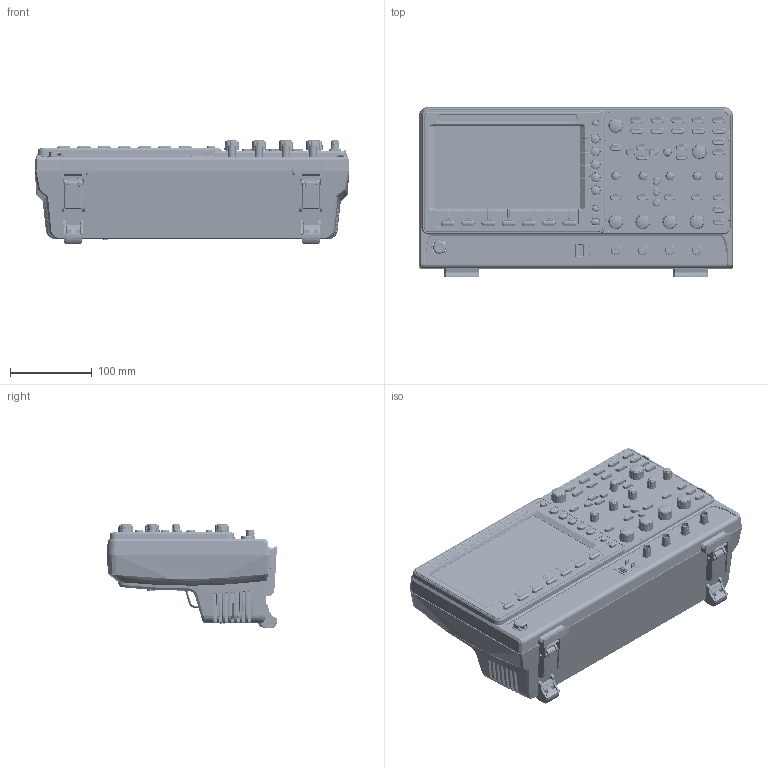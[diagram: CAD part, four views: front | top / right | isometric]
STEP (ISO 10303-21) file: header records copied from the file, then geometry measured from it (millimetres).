
FILE_DESCRIPTION((''),'2;1');
FILE_NAME('GDS2000E_ASM','2020-01-10T09:21:02',('mike_lee'),(''),'CREO PARAMETRIC BY PTC INC, 2019080','CREO PARAMETRIC BY PTC INC, 2019080','');
FILE_SCHEMA(('CONFIG_CONTROL_DESIGN'));
Products named in the file (80): GDS2000E_IN_SKEL_5; SO-M3-13_4; SO-M3-5_10; SO-M3-13-A_5; CAL-TERMINAL-1000_4; SO-M3-9-A_4; SO-M3-9_1; RIVETING_1; 62DS-2KEFP101_ASM_58_ASM; HSD080IDW1-C_10; 62DS-2KEHP101_39; 16-9_LCM_ASM_15_ASM; USB-V_16; BNC-50OHM_1; GDS1000B_USB-PCB_5; GDS1000B_USB-PCB_ASM_2_ASM; 62DS-234CP101-1KB_3; USB_B_1; RJ45_RV1-1610DN1A_5; 62DS-2KESP101_20; 62DS-2KESP201_27; 62DS-2KESP401_19; 62DS-2KESP301_11; GDS2000E_FF_PCB_ASM_60_ASM; SO-M3-7-5_2; 62DS-2KEHP201_ASM_1_ASM; 5004-160G0701_3; AC-TU301ALL-Y11_6; GDS2KE_PW_ASM_12_ASM; FAN-SCREW_4; GDS2KE_POWER_ASM_42_ASM; ENCODE_SW-NOBLE_6; BTS-LOCK-3X6_4; ENCODE_SW-PUSH_2; GDS2KE_KEY_PCBA_ASM_16_ASM; 57RG-20B04601_11; 57RG-20B04701_12; 5303-01207301_10; BMS-LOCK-3X8_9; GDS2000E_IN_ASM_129_ASM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
Assembly tree (259 placements, depth 6):
  GDS2000E_ASM
    GDS2000E_ASM_ASM_286_ASM
      GDS2000E_IN_ASM_129_ASM
        GDS2000E_IN_SKEL_5
        62DS-2KEFP101_ASM_58_ASM
          SO-M3-13_4  x12
          SO-M3-5_10  x3
          SO-M3-13-A_5  x4
          CAL-TERMINAL-1000_4
          SO-M3-9-A_4  x2
          SO-M3-9_1  x10
          RIVETING_1  x2
        16-9_LCM_ASM_15_ASM
          HSD080IDW1-C_10
          62DS-2KEHP101_39
        GDS2000E_FF_PCB_ASM_60_ASM
          USB-V_16
          BNC-50OHM_1  x6
          GDS1000B_USB-PCB_ASM_2_ASM
            GDS1000B_USB-PCB_5
            USB-V_16
          62DS-234CP101-1KB_3
          USB_B_1
          RJ45_RV1-1610DN1A_5
          62DS-2KESP101_20
          62DS-2KESP201_27
          62DS-2KESP401_19
          62DS-2KESP301_11
        GDS2KE_POWER_ASM_42_ASM
          62DS-2KEHP201_ASM_1_ASM
            SO-M3-7-5_2  x5
          GDS2KE_PW_ASM_12_ASM
            5004-160G0701_3
            AC-TU301ALL-Y11_6
          FAN-SCREW_4  x2
        GDS2KE_KEY_PCBA_ASM_16_ASM
          ENCODE_SW-NOBLE_6  x7
          BTS-LOCK-3X6_4  x12
          ENCODE_SW-PUSH_2  x6
        57RG-20B04601_11  x2
        57RG-20B04701_12  x2
        5303-01207301_10
        BMS-LOCK-3X8_9  x22
      GDS1000B_IN_ASM_56_ASM
        GDS2000E_IN_SKEL_5
        62DS-1KBFP101_ASM_40_ASM
          CAL-TERMINAL-1000_4
          SO-M3-13_4  x12
          SO-M3-5_10  x3
          SO-M3-13-A_5  x4
          SO-M3-9_1  x9
          SO-M3-9-A_4  x4
        GDS1KB_KEY_PCBA_ASM_15_ASM
          ENCODE_SW-PUSH_2  x12
          BTS-LOCK-3X6_4  x13
        GDS1000B_FF_PCB_ASM_44_ASM
          GDS1000B_USB-PCB_ASM_2_ASM
            GDS1000B_USB-PCB_5
            USB-V_16
          62DS-234CP101-1KB_3
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Bounding box: 384 x 208 x 127.6 mm (x, y, z)
Volume: 1031905.8 mm3; surface area: 1015930.6 mm2
Topology: 231 solids, 231 shells, 19896 faces, 52946 edges, 34267 vertices
Faces by surface type: plane 9844, cylinder 4508, cone 2504, bspline 1840, torus 764, sphere 239, extrusion 197
Entity records: 469452 total; most frequent: CARTESIAN_POINT 161580, ORIENTED_EDGE 66642, DIRECTION 60082, EDGE_CURVE 33321, VERTEX_POINT 21286, AXIS2_PLACEMENT_3D 20767, VECTOR 18548, LINE 18351
